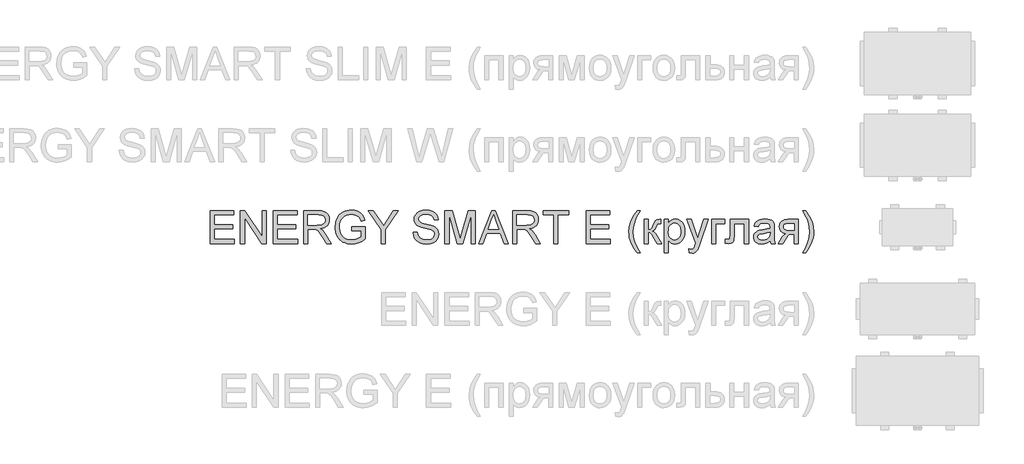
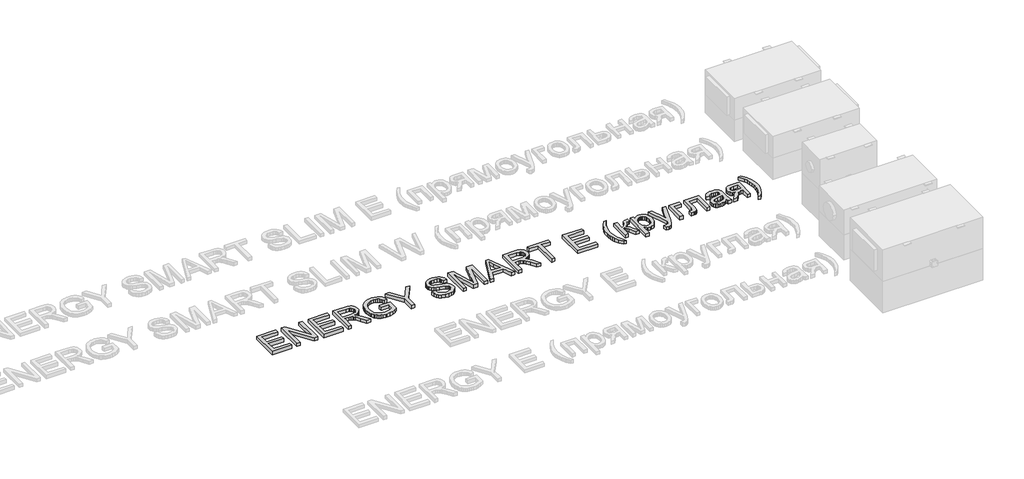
# One storey, part 24 of 28: 1 proxy.
"""IFC4 building model written with IfcOpenShell, lengths in millimetres."""

import ifcopenshell
import ifcopenshell.guid

model = None  # the IFC model being written
_history = None  # IfcOwnerHistory: only IFC2X3 demands one
_inside = {}  # id of a spatial element -> (the spatial element, [elements in it])
_under = {}  # id of a project, library or spatial element -> (it, [spatial elements below it])
_declared = {}  # id of a project -> (the project, [libraries it declares])
_typed = {}  # id of a type object -> (the type object, [elements of that type])
_made_of = {}  # id of a material, layer set ... -> (it, [elements and type objects made of it])


def new_model(schema):
    """Start an empty IFC model of exactly this schema.

    Asked for "IFC4X3", IfcOpenShell would pick the latest addendum, in which some entities
    have other attributes; the version numbers below select the first issue.
    IFC2X3 requires an IfcOwnerHistory on every rooted entity: one is made here for all.
    """
    global model, _history
    if schema == "IFC4X3":
        model = ifcopenshell.file(schema_version=(4, 3, 0, 0))
    else:
        model = ifcopenshell.file(schema=schema)
    _inside.clear()
    _under.clear()
    _declared.clear()
    _typed.clear()
    _made_of.clear()
    _history = None
    if model.schema == "IFC2X3":
        org = make("IfcOrganization", Name="unknown")
        user = make(
            "IfcPersonAndOrganization",
            ThePerson=make("IfcPerson", FamilyName="unknown"),
            TheOrganization=org,
        )
        app = make(
            "IfcApplication",
            ApplicationDeveloper=org,
            Version="unknown",
            ApplicationFullName="unknown",
            ApplicationIdentifier="unknown",
        )
        _history = make(
            "IfcOwnerHistory",
            OwningUser=user,
            OwningApplication=app,
            ChangeAction="ADDED",
            CreationDate=0,
        )
    return model


def make(cls, **values):
    """One entity of the class cls with the attributes given. An attribute that is None is left unset."""
    return model.create_entity(
        cls, **{name: value for name, value in values.items() if value is not None}
    )


def rooted(cls, **values):
    """An entity with a GlobalId (a new one), such as an element, a storey or a relation."""
    return make(cls, GlobalId=ifcopenshell.guid.new(), OwnerHistory=_history, **values)


def si_unit(unit_type, name, prefix=None):
    """IfcSIUnit, for example si_unit("LENGTHUNIT", "METRE", prefix="MILLI")."""
    return make("IfcSIUnit", UnitType=unit_type, Prefix=prefix, Name=name)


def assignment(units):
    """IfcUnitAssignment: the units of a project."""
    return None if units is None else make("IfcUnitAssignment", Units=units)


def point(xyz):
    """IfcCartesianPoint."""
    return None if xyz is None else make("IfcCartesianPoint", Coordinates=xyz)


def direction(xyz):
    """IfcDirection."""
    return None if xyz is None else make("IfcDirection", DirectionRatios=xyz)


def frame(location, z_axis=None, x_axis=None):
    """IfcAxis2Placement3D, a coordinate frame: its origin and axes. An axis left out is left unset."""
    return make(
        "IfcAxis2Placement3D",
        Location=point(location),
        Axis=direction(z_axis),
        RefDirection=direction(x_axis),
    )


def origin():
    """The frame at (0, 0, 0) with its axes left unset."""
    return frame((0.0, 0.0, 0.0))


def origin_with_axes():
    """The frame at (0, 0, 0) with the z axis (0, 0, 1) and the x axis (1, 0, 0) written out."""
    return frame((0.0, 0.0, 0.0), z_axis=(0.0, 0.0, 1.0), x_axis=(1.0, 0.0, 0.0))


def place(relative_to, where):
    """IfcLocalPlacement: puts the frame where relative to a parent placement (None: the world)."""
    return make(
        "IfcLocalPlacement", PlacementRelTo=relative_to, RelativePlacement=where
    )


def context(
    kind, dimensions, precision=None, world=None, true_north=None, identifier=None
):
    """IfcGeometricRepresentationContext, for example the 3D "Model" context."""
    return make(
        "IfcGeometricRepresentationContext",
        ContextIdentifier=identifier,
        ContextType=kind,
        CoordinateSpaceDimension=dimensions,
        Precision=precision,
        WorldCoordinateSystem=world,
        TrueNorth=true_north,
    )


def project(units=None, contexts=None):
    """IfcProject with its units and contexts."""
    return rooted(
        "IfcProject",
        Name="project",
        RepresentationContexts=contexts,
        UnitsInContext=assignment(units),
    )


def spatial(cls, under=None, at=None, **own):
    """A site, building, storey or space (cls), placed at a placement, below another one or the project."""
    s = rooted(cls, ObjectPlacement=at, **own)
    if under is not None:
        _under.setdefault(under.id(), (under, []))[1].append(s)
    return s


def polyline(points):
    """IfcPolyline through the points."""
    return make("IfcPolyline", Points=[point(p) for p in points])


def outline(outer, holes=None, kind="AREA"):
    """IfcArbitraryClosedProfileDef: a profile drawn as a closed curve; with holes, ...WithVoids."""
    if holes is None:
        return make("IfcArbitraryClosedProfileDef", ProfileType=kind, OuterCurve=outer)
    return make(
        "IfcArbitraryProfileDefWithVoids",
        ProfileType=kind,
        OuterCurve=outer,
        InnerCurves=holes,
    )


def extrude(swept, where, along, depth):
    """IfcExtrudedAreaSolid: the profile swept, set in the frame where, extruded along a direction by depth."""
    return make(
        "IfcExtrudedAreaSolid",
        SweptArea=swept,
        Position=where,
        ExtrudedDirection=direction(along),
        Depth=depth,
    )


def shape(context_of_items, identifier, shape_type, items):
    """IfcShapeRepresentation: the items that make up one representation, for example the "Body"."""
    return make(
        "IfcShapeRepresentation",
        ContextOfItems=context_of_items,
        RepresentationIdentifier=identifier,
        RepresentationType=shape_type,
        Items=items,
    )


def made_of(thing, what):
    """Note that an element or type object is made of a material, layer set ...; save() writes the relation."""
    if what is not None:
        _made_of.setdefault(what.id(), (what, []))[1].append(thing)
    return thing


def element(
    cls,
    number,
    at=None,
    inside=None,
    cuts=None,
    type_object=None,
    material=None,
    context=None,
    identifier="Body",
    shape_type=None,
    held_by="IfcProductDefinitionShape",
    body=None,
    shapes=None,
    **own,
):
    """One element of the class cls, such as IfcWall. Its Tag is "e" and its number.

    at: its placement. inside: the storey or other place that contains it. cuts: it is an
    opening in that element (IfcRelVoidsElement). A single representation is given by context,
    identifier, shape_type and body (its items); several are given by shapes. held_by: the class
    of the entity that holds the representations. save() writes the other relations.
    """
    e = rooted(cls, Tag="e%d" % number, ObjectPlacement=at, **own)
    if body is not None:
        shapes = [shape(context, identifier, shape_type, body)]
    if shapes is not None:
        e.Representation = make(held_by, Representations=shapes)
    if inside is not None:
        _inside.setdefault(inside.id(), (inside, []))[1].append(e)
    if cuts is not None:
        rooted(
            "IfcRelVoidsElement", RelatingBuildingElement=cuts, RelatedOpeningElement=e
        )
    if type_object is not None:
        _typed.setdefault(type_object.id(), (type_object, []))[1].append(e)
    return made_of(e, material)


def aggregate(whole, parts):
    """IfcRelAggregates: a whole, such as a stair, and the parts it consists of."""
    return rooted("IfcRelAggregates", RelatingObject=whole, RelatedObjects=parts)


def save(model, path):
    """Write the relations noted so far, then the file.

    IfcRelAggregates (storeys below a building ...), IfcRelContainedInSpatialStructure (elements
    in a storey), IfcRelDefinesByType, IfcRelAssociatesMaterial and IfcRelDeclares: one each for
    every whole, place, type object, material and project.
    """
    for whole, parts in _under.values():
        aggregate(whole, parts)
    for where, things in _inside.values():
        rooted(
            "IfcRelContainedInSpatialStructure",
            RelatedElements=things,
            RelatingStructure=where,
        )
    for kind, things in _typed.values():
        rooted("IfcRelDefinesByType", RelatedObjects=things, RelatingType=kind)
    for what, things in _made_of.values():
        rooted("IfcRelAssociatesMaterial", RelatedObjects=things, RelatingMaterial=what)
    for by, libraries in _declared.values():
        rooted("IfcRelDeclares", RelatingContext=by, RelatedDefinitions=libraries)
    model.write(path)


model = new_model("IFC4")

# Units and contexts
model_context = context("Model", 3, world=origin())
ifc_project = project(units=[si_unit("LENGTHUNIT", "METRE", prefix="MILLI")], contexts=[model_context])

# Site, building, storey
site = spatial("IfcSite", under=ifc_project)
building = spatial("IfcBuilding", under=site)
storey = spatial("IfcBuildingStorey", under=building, Name="Уровень 1", Elevation=0.0)

# Proxy
placement = place(None, origin())
element("IfcBuildingElementProxy", 1, Name="400 мм Arial", ObjectType="400 мм Arial", at=placement, inside=storey, context=model_context, shape_type="SweptSolid", body=[
    extrude(outline(polyline([(-29324.6968676, 19271.3067858), (-29324.6968676, 19673.1320263), (-29035.8849759, 19673.1320263), (-29035.8849759, 19622.9038713), (-29274.4687125, 19622.9038713), (-29274.4687125, 19503.612003), (-29048.4420147, 19503.612003), (-29048.4420147, 19453.3838479), (-29274.4687125, 19453.3838479), (-29274.4687125, 19321.5349408), (-29029.6064565, 19321.5349408), (-29029.6064565, 19271.3067858), (-29324.6968676, 19271.3067858)])), origin_with_axes(), (0.0, 0.0, 1.0), 50.0),
    extrude(outline(polyline([(-28954.2642239, 19271.3067858), (-28954.2642239, 19673.1320263), (-28900.5044017, 19673.1320263), (-28690.5664098, 19354.7914732), (-28690.5664098, 19673.1320263), (-28640.3382547, 19673.1320263), (-28640.3382547, 19271.3067858), (-28694.0980769, 19271.3067858), (-28904.0360689, 19589.7454408), (-28904.0360689, 19271.3067858), (-28954.2642239, 19271.3067858)])), origin_with_axes(), (0.0, 0.0, 1.0), 50.0),
    extrude(outline(polyline([(-28552.4389833, 19271.3067858), (-28552.4389833, 19673.1320263), (-28263.6270917, 19673.1320263), (-28263.6270917, 19622.9038713), (-28502.2108283, 19622.9038713), (-28502.2108283, 19503.612003), (-28276.1841304, 19503.612003), (-28276.1841304, 19453.3838479), (-28502.2108283, 19453.3838479), (-28502.2108283, 19321.5349408), (-28257.3485723, 19321.5349408), (-28257.3485723, 19271.3067858), (-28552.4389833, 19271.3067858)])), origin_with_axes(), (0.0, 0.0, 1.0), 50.0),
    extrude(outline(polyline([(-28182.0063397, 19271.3067858), (-28182.0063397, 19673.1320263), (-28008.8565473, 19673.1320263), (-27962.3194749, 19670.4219623), (-27928.4620686, 19662.2917702), (-27903.715873, 19647.2821848), (-27884.5124329, 19623.9339409), (-27872.1883861, 19594.9816278), (-27868.0803704, 19563.1598353), (-27869.7818247, 19542.5216553), (-27874.8861874, 19523.5757326), (-27883.3934585, 19506.322067), (-27895.3036381, 19490.7606586), (-27910.7700103, 19477.3881481), (-27929.9458593, 19466.7011761), (-27952.8311851, 19458.6997427), (-27979.4259876, 19453.3838479), (-27950.8783448, 19431.8995394), (-27910.1660707, 19380.1998563), (-27843.1624966, 19271.3067858), (-27901.5331065, 19271.3067858), (-27953.8214008, 19354.5952695), (-27991.590619, 19409.7285178), (-28005.6314484, 19425.804961), (-28018.1271735, 19435.7745631), (-28042.0149778, 19445.3394949), (-28071.1512318, 19447.1053285), (-28131.7781846, 19447.1053285), (-28131.7781846, 19271.3067858), (-28182.0063397, 19271.3067858)]), holes=[polyline([(-28131.7781846, 19497.3334836), (-28019.3534469, 19497.3334836), (-27987.0656704, 19499.1115799), (-27962.0129065, 19504.4458688), (-27943.1528229, 19513.6919696), (-27929.4430872, 19527.2055016), (-27921.0921659, 19543.5517249), (-27918.3085255, 19561.2958998), (-27923.618289, 19585.7968407), (-27939.5475794, 19605.5398411), (-27951.709145, 19613.1366043), (-27966.954788, 19618.5628637), (-28006.6983062, 19622.9038713), (-28131.7781846, 19622.9038713), (-28131.7781846, 19497.3334836)])]), origin_with_axes(), (0.0, 0.0, 1.0), 50.0),
    extrude(outline(polyline([(-27591.8255175, 19428.2697704), (-27591.8255175, 19478.4979254), (-27428.5840135, 19478.4979254), (-27428.5840135, 19328.3039695), (-27468.2539553, 19300.7128199), (-27509.1746959, 19280.9207686), (-27551.2481335, 19269.0013919), (-27594.376166, 19265.0282664), (-27623.2273115, 19266.6070933), (-27650.723425, 19271.343574), (-27676.8645064, 19279.2377084), (-27701.6505558, 19290.2894967), (-27724.2814299, 19304.3333919), (-27743.9569853, 19321.203847), (-27760.6772219, 19340.9008622), (-27774.4421399, 19363.4244373), (-27785.1934912, 19388.0541369), (-27792.8730279, 19414.0695253), (-27797.4807499, 19441.4706026), (-27799.0166572, 19470.2573687), (-27792.8975534, 19526.8498823), (-27785.2486735, 19553.6654141), (-27774.5402418, 19579.4937958), (-27760.9623305, 19603.2007247), (-27744.705012, 19623.651898), (-27725.7682863, 19640.8473156), (-27704.1521534, 19654.7869775), (-27680.3256628, 19665.5597886), (-27654.7578642, 19673.2546537), (-27627.4487574, 19677.8715727), (-27598.3983425, 19679.4105457), (-27557.0238808, 19675.8420904), (-27519.8187483, 19665.1367243), (-27488.4874651, 19648.0669997), (-27464.7345509, 19625.4054688), (-27447.1620543, 19596.0607484), (-27434.3720236, 19558.941455), (-27480.6761041, 19545.893907), (-27491.0135881, 19572.3691479), (-27503.5828896, 19592.3451402), (-27520.2111558, 19607.4037765), (-27542.7255339, 19619.1269495), (-27569.5686568, 19626.6685304), (-27599.1831574, 19629.1823907), (-27633.8499041, 19626.4723266), (-27663.4889302, 19618.3421345), (-27687.9898711, 19605.8096212), (-27707.2423621, 19589.8925936), (-27722.0189556, 19571.4126547), (-27733.0922037, 19551.1914077), (-27744.8644275, 19513.2750367), (-27748.7885021, 19472.3175079), (-27744.0673499, 19424.2843821), (-27729.9038931, 19384.7615931), (-27706.7273274, 19354.0311837), (-27674.9668484, 19332.375197), (-27637.7985042, 19319.5361153), (-27598.3983425, 19315.2564214), (-27563.6089685, 19318.4815203), (-27529.6779858, 19328.1568167), (-27500.210638, 19341.4864077), (-27478.8121686, 19355.67439), (-27478.8121686, 19428.2697704), (-27591.8255175, 19428.2697704)])), origin_with_axes(), (0.0, 0.0, 1.0), 50.0),
    extrude(outline(polyline([(-27233.9499126, 19271.3067858), (-27233.9499126, 19441.5135222), (-27390.9128972, 19673.1320263), (-27331.6593705, 19673.1320263), (-27247.8803775, 19549.4255741), (-27205.0098623, 19486.3460747), (-27162.0412453, 19553.9382599), (-27086.0122996, 19673.1320263), (-27026.7587729, 19673.1320263), (-27183.7217575, 19441.5135222), (-27183.7217575, 19271.3067858), (-27233.9499126, 19271.3067858)])), origin_with_axes(), (0.0, 0.0, 1.0), 50.0),
    extrude(outline(polyline([(-26844.6817108, 19409.4342122), (-26794.4535557, 19409.4342122), (-26788.6900711, 19381.5610197), (-26778.2667479, 19359.1570062), (-26762.0063637, 19341.3760431), (-26738.7316962, 19327.3720018), (-26710.2821552, 19318.2853165), (-26678.4971508, 19315.2564214), (-26650.5135937, 19317.5495525), (-26626.0126529, 19324.4289459), (-26606.1592879, 19335.3182529), (-26592.1184584, 19349.6411253), (-26583.7675371, 19366.0854504), (-26580.9838966, 19383.339116), (-26583.0685613, 19400.1513232), (-26589.3225552, 19414.682662), (-26602.0267468, 19427.0802852), (-26623.4620044, 19437.4913457), (-26696.596945, 19456.6702604), (-26744.6055454, 19469.3621892), (-26775.323692, 19481.4409814), (-26800.3274049, 19498.3390277), (-26818.0470543, 19518.8177921), (-26828.6052676, 19542.4358162), (-26832.124672, 19568.7516416), (-26827.7714017, 19598.1699385), (-26814.7115909, 19625.6016726), (-26793.2885961, 19648.8518147), (-26763.8457737, 19665.7253355), (-26728.5045767, 19675.9892432), (-26689.3864579, 19679.4105457), (-26647.006452, 19675.8298276), (-26609.9239469, 19665.0876734), (-26579.4633177, 19647.4048122), (-26556.9489396, 19623.0019731), (-26542.6996437, 19593.3997353), (-26537.034261, 19560.1186774), (-26587.262416, 19560.1186774), (-26596.4839914, 19590.0887973), (-26604.8471754, 19601.9468603), (-26615.711957, 19611.7202586), (-26645.7556533, 19624.8168576), (-26687.4244206, 19629.1823907), (-26730.0742066, 19624.8659086), (-26746.3775103, 19619.470306), (-26759.3330879, 19611.9164624), (-26776.2556597, 19592.860175), (-26781.8965169, 19570.2231696), (-26777.8988659, 19550.9216276), (-26765.9059129, 19535.3970074), (-26737.5544738, 19521.5155934), (-26683.8927534, 19507.3398739), (-26628.5142504, 19493.8753928), (-26595.0124634, 19482.1276945), (-26566.3789814, 19463.905273), (-26546.4029891, 19441.4154203), (-26534.6675535, 19414.9033912), (-26530.7557416, 19384.6144403), (-26535.2561646, 19353.651039), (-26548.7574339, 19324.5270477), (-26570.7077262, 19299.4620211), (-26600.5552188, 19280.6755139), (-26636.4482388, 19268.9400782), (-26676.5351135, 19265.0282664), (-26725.7454618, 19269.2466466), (-26766.2492694, 19281.9017872), (-26798.5125204, 19303.0427392), (-26823.0011985, 19332.7185535), (-26838.7220225, 19368.8690909), (-26844.6817108, 19409.4342122)])), origin_with_axes(), (0.0, 0.0, 1.0), 50.0),
    extrude(outline(polyline([(-26455.413509, 19271.3067858), (-26455.413509, 19673.1320263), (-26368.9857656, 19673.1320263), (-26286.7764024, 19389.911941), (-26270.1971871, 19330.7565162), (-26252.2445458, 19394.8170343), (-26171.4086087, 19673.1320263), (-26084.9808653, 19673.1320263), (-26084.9808653, 19271.3067858), (-26135.2090204, 19271.3067858), (-26135.2090204, 19622.9038713), (-26236.1558398, 19271.3067858), (-26304.2385344, 19271.3067858), (-26405.1853539, 19622.9038713), (-26405.1853539, 19271.3067858), (-26455.413509, 19271.3067858)])), origin_with_axes(), (0.0, 0.0, 1.0), 50.0),
    extrude(outline(polyline([(-26043.8761837, 19271.3067858), (-25883.4796338, 19673.1320263), (-25840.7072205, 19673.1320263), (-25680.3106706, 19271.3067858), (-25733.3837798, 19271.3067858), (-25779.3935546, 19396.8771734), (-25944.8914015, 19396.8771734), (-25990.8030745, 19271.3067858), (-26043.8761837, 19271.3067858)]), holes=[polyline([(-25926.4482508, 19447.1053285), (-25797.7386035, 19447.1053285), (-25833.9381918, 19545.893907), (-25862.0934271, 19622.9038713), (-25887.1094028, 19554.5268711), (-25926.4482508, 19447.1053285)])]), origin_with_axes(), (0.0, 0.0, 1.0), 50.0),
    extrude(outline(polyline([(-25626.6489502, 19271.3067858), (-25626.6489502, 19673.1320263), (-25453.4991578, 19673.1320263), (-25406.9620854, 19670.4219623), (-25373.1046792, 19662.2917702), (-25348.3584836, 19647.2821848), (-25329.1550435, 19623.9339409), (-25316.8309966, 19594.9816278), (-25312.722981, 19563.1598353), (-25314.4244352, 19542.5216553), (-25319.5287979, 19523.5757326), (-25328.0360691, 19506.322067), (-25339.9462487, 19490.7606586), (-25355.4126209, 19477.3881481), (-25374.5884699, 19466.7011761), (-25397.4737956, 19458.6997427), (-25424.0685982, 19453.3838479), (-25395.5209554, 19431.8995394), (-25354.8086813, 19380.1998563), (-25287.8051072, 19271.3067858), (-25346.1757171, 19271.3067858), (-25398.4640114, 19354.5952695), (-25436.2332295, 19409.7285178), (-25450.274059, 19425.804961), (-25462.7697841, 19435.7745631), (-25486.6575883, 19445.3394949), (-25515.7938423, 19447.1053285), (-25576.4207952, 19447.1053285), (-25576.4207952, 19271.3067858), (-25626.6489502, 19271.3067858)]), holes=[polyline([(-25576.4207952, 19497.3334836), (-25463.9960574, 19497.3334836), (-25431.708281, 19499.1115799), (-25406.6555171, 19504.4458688), (-25387.7954335, 19513.6919696), (-25374.0856978, 19527.2055016), (-25365.7347765, 19543.5517249), (-25362.9511361, 19561.2958998), (-25368.2608995, 19585.7968407), (-25384.1901899, 19605.5398411), (-25396.3517556, 19613.1366043), (-25411.5973986, 19618.5628637), (-25451.3409168, 19622.9038713), (-25576.4207952, 19622.9038713), (-25576.4207952, 19497.3334836)])]), origin_with_axes(), (0.0, 0.0, 1.0), 50.0),
    extrude(outline(polyline([(-25124.3673995, 19271.3067858), (-25124.3673995, 19622.9038713), (-25256.2163066, 19622.9038713), (-25256.2163066, 19673.1320263), (-24942.2903373, 19673.1320263), (-24942.2903373, 19622.9038713), (-25074.1392444, 19622.9038713), (-25074.1392444, 19271.3067858), (-25124.3673995, 19271.3067858)])), origin_with_axes(), (0.0, 0.0, 1.0), 50.0),
    extrude(outline(polyline([(-24728.8206783, 19271.3067858), (-24728.8206783, 19673.1320263), (-24440.0087866, 19673.1320263), (-24440.0087866, 19622.9038713), (-24678.5925232, 19622.9038713), (-24678.5925232, 19503.612003), (-24452.5658254, 19503.612003), (-24452.5658254, 19453.3838479), (-24678.5925232, 19453.3838479), (-24678.5925232, 19321.5349408), (-24433.7302672, 19321.5349408), (-24433.7302672, 19271.3067858), (-24728.8206783, 19271.3067858)])), origin_with_axes(), (0.0, 0.0, 1.0), 50.0),
    extrude(outline(polyline([(-24107.2472592, 19158.2934368), (-24146.1691743, 19212.9116504), (-24178.5673153, 19276.1137772), (-24191.3144265, 19310.1673872), (-24200.4195059, 19344.8341339), (-24205.8825535, 19380.1140172), (-24207.7035694, 19416.0070372), (-24202.2589158, 19478.424349), (-24185.9249552, 19538.1438596), (-24153.5022887, 19605.7850958), (-24107.2472592, 19673.1320263), (-24069.5761429, 19673.1320263), (-24116.5669364, 19593.5714135), (-24132.6065914, 19555.8021954), (-24144.8202737, 19516.4633473), (-24154.3116291, 19466.2106668), (-24157.4754143, 19415.7127316), (-24151.9817098, 19351.3211197), (-24135.5005964, 19286.9540333), (-24108.0320741, 19222.6114723), (-24069.5761429, 19158.2934368), (-24107.2472592, 19158.2934368)])), origin_with_axes(), (0.0, 0.0, 1.0), 50.0),
    extrude(outline(polyline([(-24019.3479878, 19566.3971968), (-23969.1198328, 19566.3971968), (-23969.1198328, 19440.8268091), (-23948.6901193, 19443.083152), (-23935.4708929, 19449.8521807), (-23923.7722455, 19467.5105165), (-23907.9042688, 19502.4347806), (-23884.9974832, 19547.8068933), (-23875.5551787, 19556.967155), (-23864.7884989, 19562.5712241), (-23828.0493503, 19566.3971968), (-23818.4353675, 19566.3971968), (-23818.4353675, 19515.8747361), (-23831.973425, 19516.1690417), (-23847.6697234, 19514.8446666), (-23856.4988913, 19510.871541), (-23873.7648196, 19477.8112124), (-23884.3720838, 19455.7750809), (-23894.0228548, 19442.0530824), (-23905.7092395, 19432.8928208), (-23922.4233448, 19424.5418995), (-23906.5063172, 19417.4724338), (-23890.7364423, 19404.9951028), (-23875.1137203, 19387.1099065), (-23859.638151, 19363.8168448), (-23805.8783288, 19271.3067858), (-23862.9736144, 19271.3067858), (-23915.6543161, 19361.8548075), (-23929.8790866, 19385.9510782), (-23942.1418198, 19400.1635859), (-23954.5271803, 19407.1165556), (-23969.1198328, 19409.4342122), (-23969.1198328, 19271.3067858), (-24019.3479878, 19271.3067858), (-24019.3479878, 19566.3971968)])), origin_with_axes(), (0.0, 0.0, 1.0), 50.0),
    extrude(outline(polyline([(-23774.4857318, 19158.2934368), (-23774.4857318, 19566.3971968), (-23724.2575768, 19566.3971968), (-23724.2575768, 19517.1500604), (-23707.8745653, 19541.4425348), (-23689.5295164, 19558.7943022), (-23668.1433098, 19569.2053627), (-23642.6368248, 19572.6757162), (-23608.6690539, 19567.8196739), (-23578.9687141, 19553.2515469), (-23554.7866043, 19529.854252), (-23537.3735232, 19498.510706), (-23526.8520982, 19461.5017773), (-23523.3449565, 19421.1083342), (-23527.3058193, 19378.1519799), (-23539.1884077, 19339.7328369), (-23558.6125771, 19307.8006797), (-23585.1981826, 19284.3052829), (-23616.1615839, 19269.8475205), (-23648.7191404, 19265.0282664), (-23671.809867, 19268.2533652), (-23692.4235215, 19277.9286617), (-23710.0695945, 19292.5335769), (-23724.2575768, 19310.5475319), (-23724.2575768, 19158.2934368), (-23774.4857318, 19158.2934368)]), holes=[polyline([(-23724.2575768, 19416.4975465), (-23718.825186, 19371.4687903), (-23712.0346975, 19354.0311837), (-23702.5280136, 19339.9780915), (-23678.4807938, 19321.436839), (-23664.7189415, 19316.8015258), (-23649.7982609, 19315.2564214), (-23634.6629825, 19316.8567081), (-23620.6497442, 19321.6575682), (-23607.7585459, 19329.6590016), (-23595.9893878, 19340.8610083), (-23586.1822669, 19355.4230039), (-23579.1771806, 19373.504404), (-23574.9741288, 19395.1052085), (-23573.5731115, 19420.2254174), (-23579.0422905, 19465.0089189), (-23585.8787643, 19482.5814156), (-23595.4498275, 19496.9410761), (-23619.4602591, 19516.0709399), (-23633.0657615, 19520.8534058), (-23647.7381218, 19522.4475611), (-23662.3644968, 19520.7522383), (-23676.1263491, 19515.6662697), (-23701.0564856, 19495.3223953), (-23711.206963, 19480.2239051), (-23718.457304, 19462.0536003), (-23722.8075086, 19440.8114807), (-23724.2575768, 19416.4975465)])]), origin_with_axes(), (0.0, 0.0, 1.0), 50.0),
    extrude(outline(polyline([(-23466.838282, 19158.2934368), (-23473.1168014, 19206.6576565), (-23447.6103164, 19202.2430725), (-23434.1948863, 19203.6287614), (-23423.7715631, 19207.7858279), (-23409.1543852, 19223.2368717), (-23395.420124, 19260.221275), (-23391.4960494, 19272.3859063), (-23498.2308789, 19566.3971968), (-23445.2558716, 19566.3971968), (-23388.6510953, 19402.5670816), (-23368.9326204, 19337.0350356), (-23349.2141454, 19394.9151361), (-23291.0397392, 19566.3971968), (-23238.4571394, 19566.3971968), (-23341.1697925, 19264.2434514), (-23367.8534998, 19198.7114054), (-23381.5141846, 19177.7911826), (-23396.9897539, 19163.296632), (-23414.9669207, 19154.8353461), (-23436.1323981, 19152.0149174), (-23466.838282, 19158.2934368)])), origin_with_axes(), (0.0, 0.0, 1.0), 50.0),
    extrude(outline(polyline([(-23196.8619485, 19566.3971968), (-23033.6204445, 19566.3971968), (-23033.6204445, 19516.1690417), (-23146.6337934, 19516.1690417), (-23146.6337934, 19271.3067858), (-23196.8619485, 19271.3067858), (-23196.8619485, 19566.3971968)])), origin_with_axes(), (0.0, 0.0, 1.0), 50.0),
    extrude(outline(polyline([(-22970.8352506, 19566.3971968), (-22744.8085528, 19566.3971968), (-22744.8085528, 19271.6010913), (-22795.0367079, 19271.6010913), (-22795.0367079, 19516.1690417), (-22920.6070956, 19516.1690417), (-22920.6070956, 19375.3928649), (-22923.9916099, 19310.44943), (-22930.331443, 19295.746413), (-22942.5819134, 19283.0299587), (-22961.1722169, 19274.237579), (-22986.5315491, 19271.3067858), (-23027.3419251, 19273.8574343), (-23027.3419251, 19321.5349408), (-23004.8765979, 19321.5349408), (-22982.1660161, 19324.6251496), (-22973.0915936, 19334.4353361), (-22970.8352506, 19378.237819), (-22970.8352506, 19566.3971968)])), origin_with_axes(), (0.0, 0.0, 1.0), 50.0),
    extrude(outline(polyline([(-22481.1107387, 19308.9779021), (-22505.1089075, 19288.4010358), (-22529.8183148, 19274.9365548), (-22555.8030464, 19267.5053385), (-22583.627188, 19265.0282664), (-22605.9913476, 19266.5181884), (-22625.6025236, 19270.9879547), (-22642.4607161, 19278.4375651), (-22656.5659249, 19288.8670197), (-22667.7035523, 19301.6141308), (-22675.6590005, 19316.0167109), (-22680.4322693, 19332.07476), (-22682.023359, 19349.7882781), (-22679.6198633, 19370.610399), (-22672.4093762, 19389.5195335), (-22661.2870772, 19405.7063413), (-22647.1481458, 19418.361482), (-22630.5321424, 19427.9264138), (-22611.9786271, 19434.8425953), (-22568.5195007, 19442.396439), (-22517.1631742, 19450.3426901), (-22481.4050443, 19459.6623673), (-22481.1107387, 19470.8459799), (-22484.5688294, 19493.2622562), (-22494.9431017, 19507.928485), (-22518.1441928, 19518.8177921), (-22550.4687575, 19522.4475611), (-22580.3898264, 19520.0318027), (-22601.2855238, 19512.7845274), (-22615.5348197, 19499.38136), (-22625.5166845, 19478.4979254), (-22675.7448396, 19484.7764448), (-22667.0260363, 19512.2449671), (-22654.0152764, 19533.8273775), (-22635.4985493, 19550.3330164), (-22610.2618444, 19562.5712241), (-22579.396545, 19570.1495932), (-22543.9940344, 19572.6757162), (-22510.0385262, 19570.4438988), (-22483.1218269, 19563.7484465), (-22462.8270035, 19553.6807425), (-22448.7371231, 19541.3321702), (-22439.3929204, 19526.0650674), (-22433.3351302, 19507.241772), (-22430.8825836, 19463.2921363), (-22430.8825836, 19400.8012481), (-22428.3319351, 19313.5396388), (-22418.3255448, 19271.3067858), (-22468.5536999, 19271.3067858), (-22476.5980529, 19288.7689178), (-22481.1107387, 19308.9779021)]), holes=[polyline([(-22481.1107387, 19409.4342122), (-22514.8577804, 19401.0710282), (-22562.1428795, 19394.0322193), (-22605.3567512, 19385.8897645), (-22616.6016775, 19380.3224837), (-22624.9280733, 19372.6460127), (-22630.0784212, 19363.4489628), (-22631.7952039, 19353.3199452), (-22628.0550703, 19338.3839362), (-22616.8346694, 19326.1457285), (-22598.379256, 19317.9787482), (-22572.9340847, 19315.2564214), (-22545.9560717, 19318.2607911), (-22522.1173184, 19327.2739), (-22502.7912509, 19340.55444), (-22489.3512954, 19356.361103), (-22483.391607, 19372.6460127), (-22481.4050443, 19395.2094417), (-22481.1107387, 19409.4342122)])]), origin_with_axes(), (0.0, 0.0, 1.0), 50.0),
    extrude(outline(polyline([(-22135.7921725, 19566.3971968), (-22135.7921725, 19271.3067858), (-22186.0203276, 19271.3067858), (-22186.0203276, 19384.3201347), (-22213.390748, 19384.3201347), (-22235.2184131, 19382.7259794), (-22250.6694569, 19377.9435134), (-22265.556415, 19364.037574), (-22285.6918228, 19335.0729982), (-22325.7173839, 19271.3067858), (-22383.7936882, 19271.3067858), (-22333.3693294, 19351.9465191), (-22311.100206, 19380.8865694), (-22290.5969161, 19393.7379137), (-22324.932569, 19404.2593388), (-22338.2744227, 19413.0701126), (-22349.0656279, 19424.2475939), (-22363.3394493, 19450.8331994), (-22368.0973897, 19481.1466758), (-22366.4725776, 19499.2342072), (-22361.5981412, 19515.5313796), (-22353.4740804, 19530.038193), (-22342.1003954, 19542.7546473), (-22327.6487644, 19553.0982627), (-22310.2908656, 19560.4865594), (-22290.026699, 19564.9195375), (-22266.8562647, 19566.3971968), (-22135.7921725, 19566.3971968)]), holes=[polyline([(-22186.0203276, 19516.1690417), (-22252.2390867, 19516.1690417), (-22286.4398496, 19513.262774), (-22305.8517562, 19504.5439707), (-22314.864865, 19491.9256183), (-22317.8692347, 19477.3207031), (-22313.442388, 19458.1785766), (-22300.161848, 19444.8980365), (-22275.6241189, 19437.1357264), (-22237.4257051, 19434.5482897), (-22186.0203276, 19434.5482897), (-22186.0203276, 19516.1690417)])]), origin_with_axes(), (0.0, 0.0, 1.0), 50.0),
    extrude(outline(polyline([(-22047.8929011, 19158.2934368), (-22085.5640175, 19158.2934368), (-22047.1080862, 19222.6114723), (-22019.6395639, 19286.9540333), (-22003.1584505, 19351.3211197), (-21997.6647461, 19415.7127316), (-22000.8285312, 19465.8427848), (-22010.3198867, 19515.5804305), (-22022.3128397, 19554.992855), (-22038.2789183, 19592.7865986), (-22085.5640175, 19673.1320263), (-22047.8929011, 19673.1320263), (-22001.6378716, 19605.7850958), (-21969.2152051, 19538.1438596), (-21952.8812445, 19478.424349), (-21947.436591, 19416.0070372), (-21949.2668039, 19380.1140172), (-21954.7574427, 19344.8341339), (-21963.9085073, 19310.1673872), (-21976.7199978, 19276.1137772), (-22009.1549271, 19212.9116504), (-22047.8929011, 19158.2934368)])), origin_with_axes(), (0.0, 0.0, 1.0), 50.0),
])

save(model, "model.ifc")
